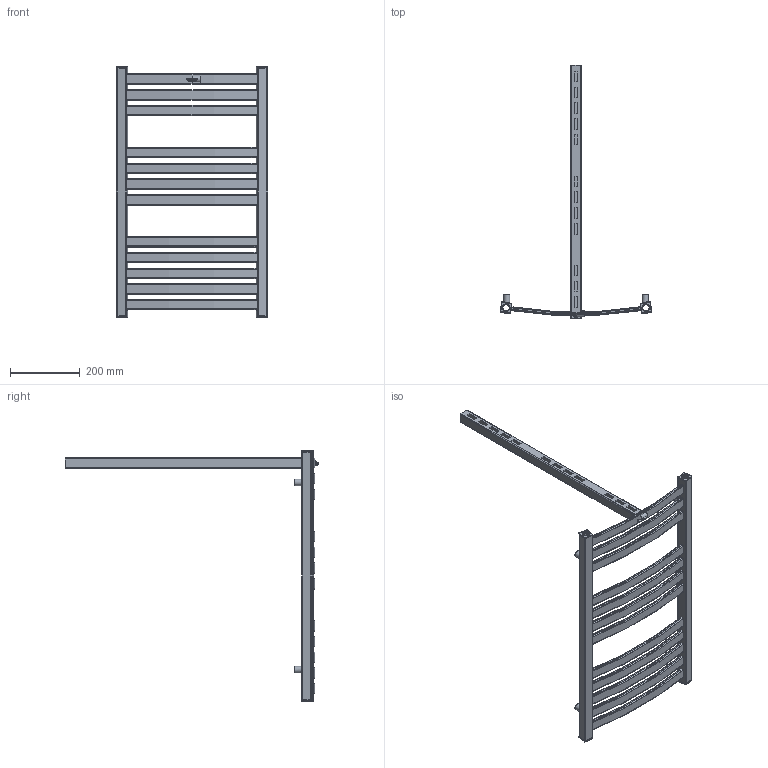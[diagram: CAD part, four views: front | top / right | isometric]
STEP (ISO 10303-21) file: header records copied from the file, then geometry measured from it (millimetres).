
FILE_DESCRIPTION( ( 'Unknown' ), '1' );
FILE_NAME( 'D:/Alplast sp. j/Witryna zespoBu - Projekty/Archiwum/Grzejniki Archiwum/Projekty/STANDARD/AK-EL/AK2-400EL.stp', 'Unknown', ( 'Unknown' ), ( 'Unknown' ), 'PSStep 10.1', 'Unknown', ' ' );
FILE_SCHEMA( ( 'AUTOMOTIVE_DESIGN { 1 0 10303 214 1 1 1 1 }' ) );
Length unit declared in the file: millimetre
Products named in the file (5): Assem1; kana³  poziomy lukowy L-400; zaslepka kwadrat otwor; tulejka kat 12stopni; AK2-EPEL
Bounding box: 433.75 x 726 x 715 mm (x, y, z)
Volume: 875590.5 mm3; surface area: 1174147.5 mm2
Topology: 26 solids, 26 shells, 716 faces, 1982 edges, 1328 vertices
Faces by surface type: plane 322, cylinder 280, torus 114
Full cylindrical faces by diameter (mm): 16 x5, 18 x5, 18.631 x5, 23 x5
Entity records: 6754 total; most frequent: DIRECTION 986, CARTESIAN_POINT 931, ORIENTED_EDGE 892, EDGE_CURVE 446, AXIS2_PLACEMENT_3D 357, VERTEX_POINT 302, LINE 272, VECTOR 272
